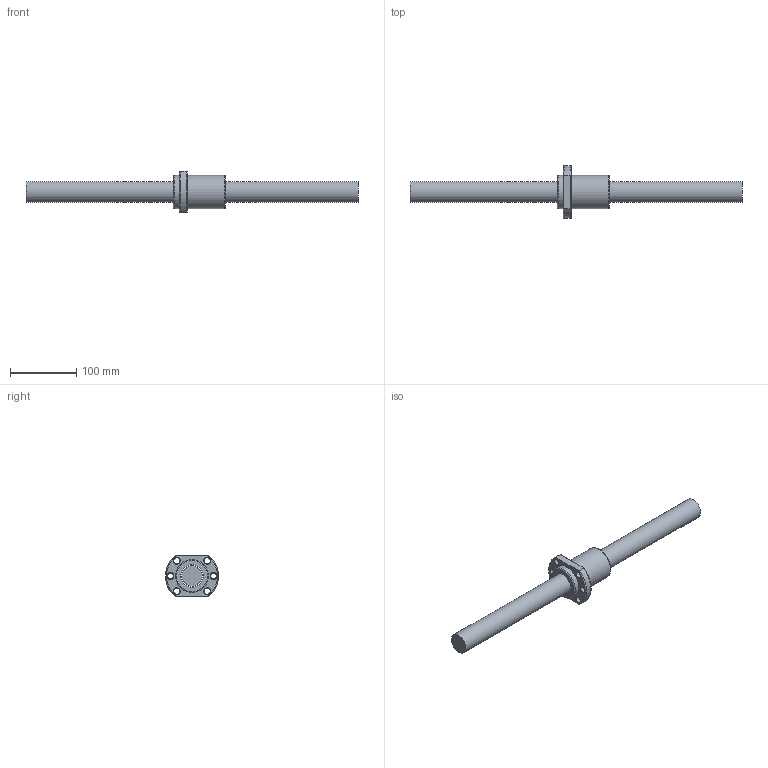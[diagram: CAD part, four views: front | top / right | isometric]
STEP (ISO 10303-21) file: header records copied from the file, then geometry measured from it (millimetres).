
FILE_DESCRIPTION (( 'STEP AP203' ), '1' );
FILE_NAME ('SFA3232-1.8.step', '2024-05-07T07:25:49', ( '' ), ( '' ), 'SwSTEP 2.0', 'SolidWorks 2022', '' );
FILE_SCHEMA (( 'CONFIG_CONTROL_DESIGN' ));
Length unit declared in the file: millimetre
Products named in the file (1): SFA3232-1.8
Bounding box: 500 x 79.74 x 62 mm (x, y, z)
Volume: 484787.8 mm3; surface area: 79761.5 mm2
Topology: 2 solids, 2 shells, 57 faces, 138 edges, 87 vertices
Faces by surface type: cylinder 20, plane 13, cone 13, torus 6, bspline 5
Full cylindrical faces by diameter (mm): 4 x1, 5 x6, 9 x6, 31 x1, 33.7 x1, 50 x2
Entity records: 3205 total; most frequent: CARTESIAN_POINT 2118, DIRECTION 198, ORIENTED_EDGE 172, EDGE_LOOP 96, AXIS2_PLACEMENT_3D 91, EDGE_CURVE 86, VERTEX_POINT 70, FACE_OUTER_BOUND 65
